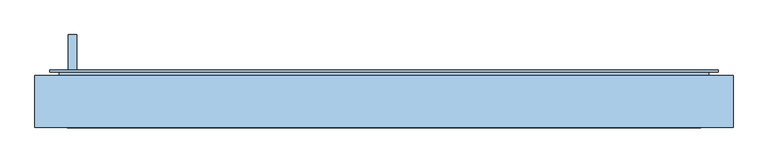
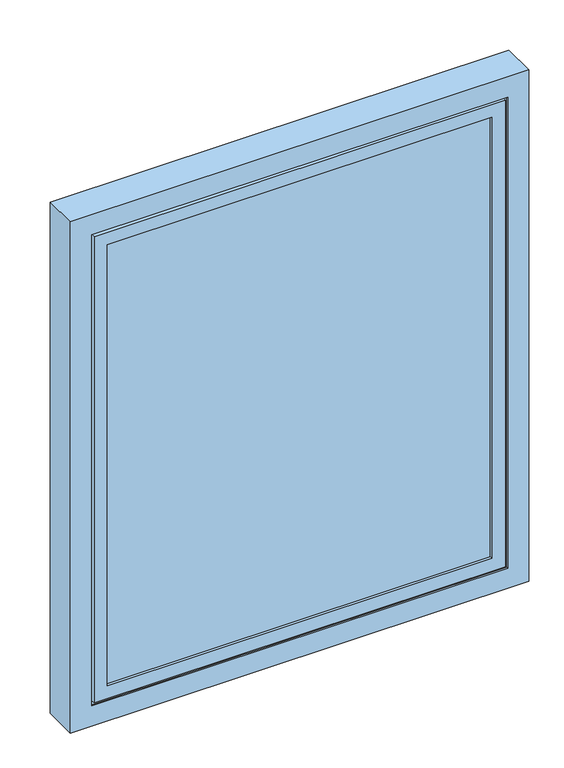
"""IFC4 building model written with IfcOpenShell, lengths in millimetres: window geometry, Reynaers_MasterLine 10_Window_Inward Opening_Single Vent : Reynaers_Masterline 10_Window_Inward Opening_Single Vent."""

from ifc_helpers import new_model, si_unit, frame, origin, place, context, project, spatial, polyline, outline, extrude, faceted_brep, source, transform, mapped, element, save


def window_3e6d08a6(model_context):
    return source(origin(), model_context, "Body", "SolidModel", [
        extrude(outline(polyline([(102.0, 1550.0), (102.0, 1565.0), (167.0, 1565.0), (167.0, 1430.0), (152.0, 1430.0), (152.0, 1550.0), (102.0, 1550.0)])), frame((-583.0, 0.0, 0.0), z_axis=(1.0, 0.0, 0.0), x_axis=(0.0, 1.0, 0.0)), (0.0, 0.0, 1.0), 15.0),
        faceted_brep([(-645.0, 92.0, 800.0), (645.0, 92.0, 800.0), (645.0, -5.0, 800.0), (-645.0, -5.0, 800.0), (645.0, 92.0, 2320.0), (645.0, -5.0, 2320.0), (-645.0, -5.0, 2320.0), (585.0, -5.0, 2260.0), (585.0, -5.0, 860.0), (-585.0, -5.0, 860.0), (-585.0, -5.0, 2260.0), (-645.0, 92.0, 2320.0), (612.0, 92.0, 833.0), (612.0, 92.0, 2287.0), (-612.0, 92.0, 2287.0), (-612.0, 92.0, 833.0), (585.0, -1.0, 860.0), (-585.0, -1.0, 860.0), (585.0, -1.0, 2260.0), (-612.0, -1.0, 2287.0), (612.0, -1.0, 2287.0), (612.0, -1.0, 833.0), (-612.0, -1.0, 833.0), (-585.0, -1.0, 2260.0)], [[[0, 1, 2, 3]], [[1, 4, 5, 2]], [[2, 5, 6, 3], [7, 8, 9, 10]], [[4, 1, 0, 11], [12, 13, 14, 15]], [[9, 8, 16, 17]], [[8, 7, 18, 16]], [[19, 20, 21, 22], [18, 23, 17, 16]], [[11, 0, 3, 6]], [[10, 9, 17, 23]], [[22, 21, 12, 15]], [[19, 22, 15, 14]], [[21, 20, 13, 12]], [[4, 11, 6, 5]], [[7, 10, 23, 18]], [[20, 19, 14, 13]]]),
        faceted_brep([(-578.0, 5.0, 867.0), (578.0, 5.0, 867.0), (578.0, -5.0, 867.0), (-578.0, -5.0, 867.0), (578.0, 5.0, 2253.0), (578.0, -5.0, 2253.0), (-578.0, -5.0, 2253.0), (541.0, -5.0, 2216.0), (541.0, -5.0, 904.0), (-541.0, -5.0, 904.0), (-541.0, -5.0, 2216.0), (600.0, 5.0, 2275.0), (-600.0, 5.0, 2275.0), (-600.0, 5.0, 845.0), (600.0, 5.0, 845.0), (-578.0, 5.0, 2253.0), (541.0, 3.0, 904.0), (-541.0, 3.0, 904.0), (541.0, 3.0, 2216.0), (-568.0, 3.0, 2243.0), (568.0, 3.0, 2243.0), (568.0, 3.0, 877.0), (-568.0, 3.0, 877.0), (-541.0, 3.0, 2216.0), (568.0, 102.0, 877.0), (-568.0, 102.0, 877.0), (618.0, 102.0, 2293.0), (618.0, 102.0, 827.0), (-618.0, 102.0, 827.0), (-618.0, 102.0, 2293.0), (568.0, 102.0, 2243.0), (-568.0, 102.0, 2243.0), (-618.0, 98.0, 827.0), (-618.0, 98.0, 2293.0), (618.0, 98.0, 827.0), (618.0, 98.0, 2293.0), (-600.0, 98.0, 2275.0), (-600.0, 98.0, 845.0), (600.0, 98.0, 845.0), (600.0, 98.0, 2275.0)], [[[0, 1, 2, 3]], [[1, 4, 5, 2]], [[2, 5, 6, 3], [7, 8, 9, 10]], [[11, 12, 13, 14], [15, 4, 1, 0]], [[9, 8, 16, 17]], [[8, 7, 18, 16]], [[19, 20, 21, 22], [18, 23, 17, 16]], [[15, 0, 3, 6]], [[10, 9, 17, 23]], [[22, 21, 24, 25]], [[26, 27, 28, 29], [24, 30, 31, 25]], [[19, 22, 25, 31]], [[21, 20, 30, 24]], [[29, 28, 32, 33]], [[28, 27, 34, 32]], [[27, 26, 35, 34]], [[36, 37, 13, 12]], [[37, 38, 14, 13]], [[35, 33, 32, 34], [36, 39, 38, 37]], [[38, 39, 11, 14]], [[4, 15, 6, 5]], [[7, 10, 23, 18]], [[20, 19, 31, 30]], [[39, 36, 12, 11]], [[26, 29, 33, 35]]]),
        extrude(outline(polyline([(2243.0, 568.0), (2243.0, -568.0), (877.0, -568.0), (877.0, 568.0), (2243.0, 568.0)]), holes=[polyline([(2218.0, -543.0), (2218.0, 543.0), (902.0, 543.0), (902.0, -543.0), (2218.0, -543.0)])]), frame((0.0, 36.0, 0.0), z_axis=(0.0, 1.0, 0.0), x_axis=(0.0, 0.0, 1.0)), (0.0, 0.0, 1.0), 66.0),
        extrude(outline(polyline([(560.0, 30.0), (560.0, 3.0), (-560.0, 3.0), (-560.0, 30.0), (560.0, 30.0)])), frame((0.0, 0.0, 885.0), z_axis=(0.0, 0.0, 1.0), x_axis=(1.0, 0.0, 0.0)), (0.0, 0.0, 1.0), 1350.0),
    ])


if __name__ == "__main__":
    model = new_model("IFC4")
    model_context = context("Model", 3, world=origin())
    ifc_project = project(units=[si_unit("LENGTHUNIT", "METRE", prefix="MILLI")], contexts=[model_context])
    site = spatial("IfcSite", under=ifc_project)
    building = spatial("IfcBuilding", under=site)
    placement = place(None, origin())
    window_shape = window_3e6d08a6(model_context)
    element("IfcWindow", 1, ObjectType="Reynaers_MasterLine 10_Window_Inward Opening_Single Vent : Reynaers_Masterline 10_Window_Inward Opening_Single Vent", at=placement, inside=building, context=model_context, shape_type="MappedRepresentation", body=[
        mapped(window_shape, transform((0.0, 0.0, 0.0), x_axis=(1.0, 0.0, 0.0), y_axis=(0.0, 1.0, 0.0), z_axis=(0.0, 0.0, 1.0))),
    ])
    save(model, "model.ifc")
